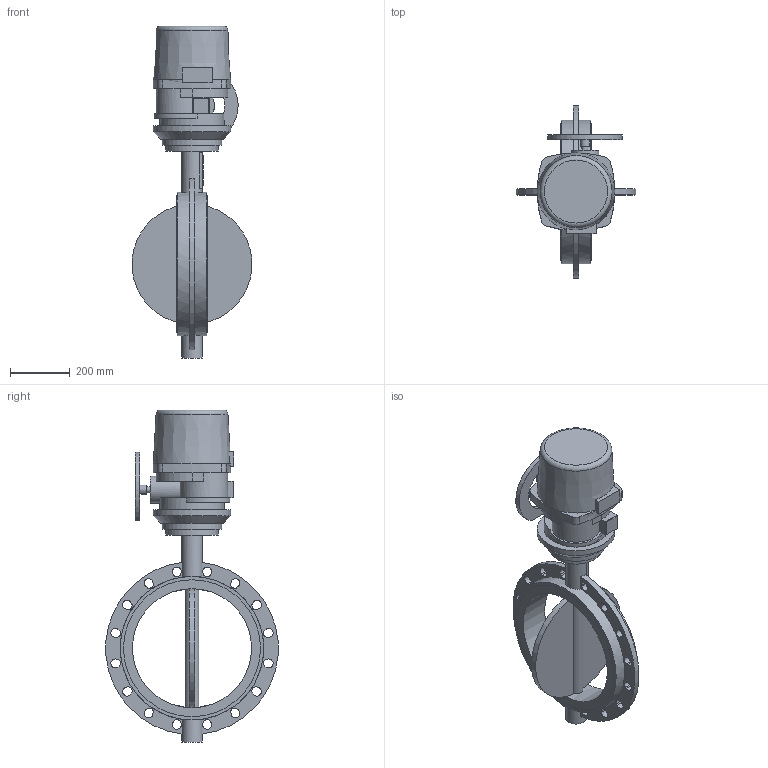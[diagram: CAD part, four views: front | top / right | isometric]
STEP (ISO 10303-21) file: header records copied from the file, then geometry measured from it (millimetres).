
FILE_DESCRIPTION(('STEP AP203'), '1');
FILE_NAME('青蜮铕 017WDN400+菹 QT120-0,3', '', ('UNSPECIFIED'), ('UNSPECIFIED'), 'ASCON STEP Converter 1.6', 'ASCON Math Kernel', '');
FILE_SCHEMA(('CONFIG_CONTROL_DESIGN'));
Length unit declared in the file: millimetre
Bounding box: 401.56 x 577.88 x 1115 mm (x, y, z)
Volume: 30138006.4 mm3; surface area: 1489064.3 mm2
Topology: 1 solids, 1 shells, 770 faces, 2185 edges, 1449 vertices
Faces by surface type: cylinder 524, plane 243, cone 2, torus 1
Full cylindrical faces by diameter (mm): 18 x8, 20.595 x1, 30 x1, 70 x2, 90 x1, 175 x1, 200 x1, 215 x1, 260 x1, 400 x1, 460 x2, 482 x2
Entity records: 32614 total; most frequent: CARTESIAN_POINT 5368, DIRECTION 4772, ORIENTED_EDGE 4320, EDGE_CURVE 2160, AXIS2_PLACEMENT_3D 1864, VERTEX_POINT 1449, CIRCLE 1093, LINE 1044
